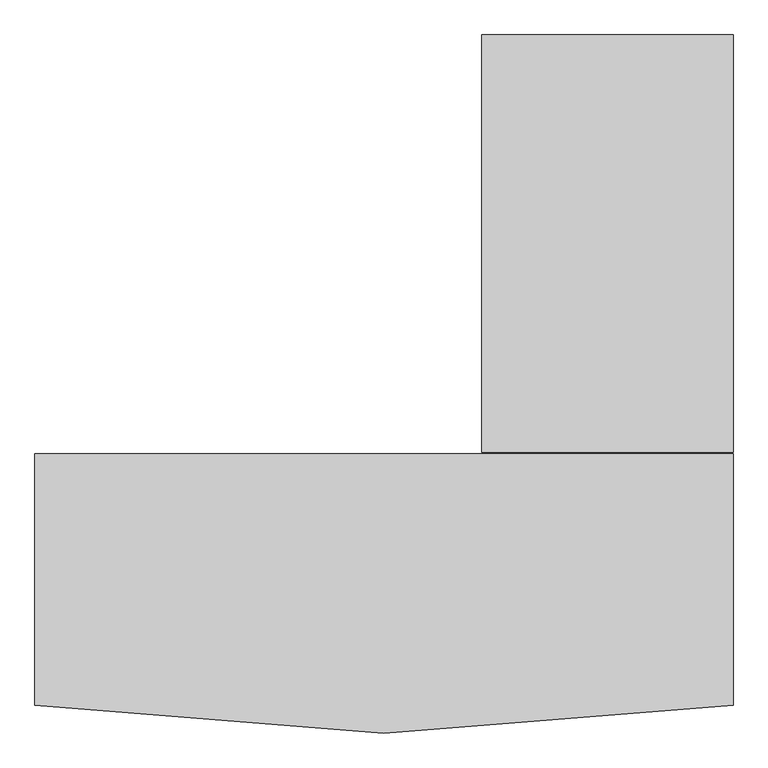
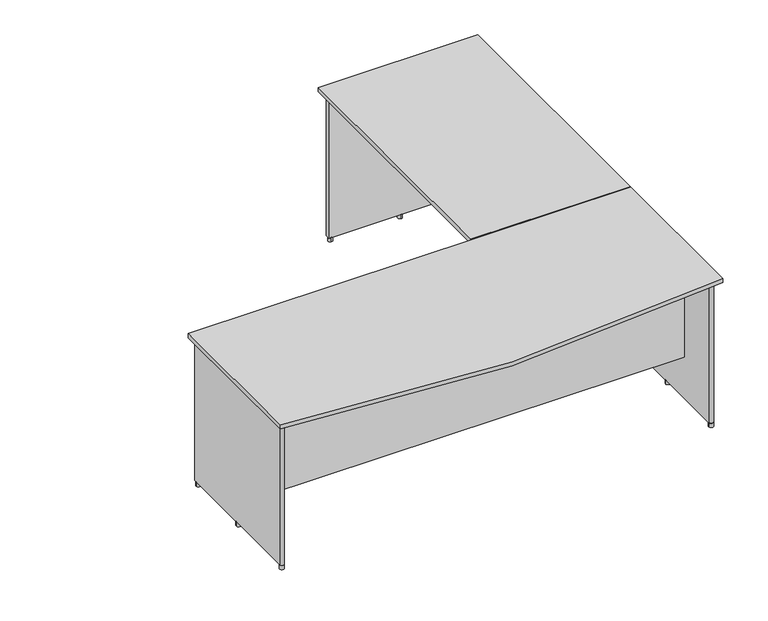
"""IFC4 building model written with IfcOpenShell, lengths in millimetres: furniture geometry, Mobilier - Bureau - En L - 2000mm x 2000mm."""

import ifcopenshell
import ifcopenshell.guid

model = None  # the IFC model being written
_history = None  # IfcOwnerHistory: only IFC2X3 demands one
_inside = {}  # id of a spatial element -> (the spatial element, [elements in it])
_under = {}  # id of a project, library or spatial element -> (it, [spatial elements below it])
_declared = {}  # id of a project -> (the project, [libraries it declares])
_typed = {}  # id of a type object -> (the type object, [elements of that type])
_made_of = {}  # id of a material, layer set ... -> (it, [elements and type objects made of it])


def new_model(schema):
    """Start an empty IFC model of exactly this schema.

    Asked for "IFC4X3", IfcOpenShell would pick the latest addendum, in which some entities
    have other attributes; the version numbers below select the first issue.
    IFC2X3 requires an IfcOwnerHistory on every rooted entity: one is made here for all.
    """
    global model, _history
    if schema == "IFC4X3":
        model = ifcopenshell.file(schema_version=(4, 3, 0, 0))
    else:
        model = ifcopenshell.file(schema=schema)
    _inside.clear()
    _under.clear()
    _declared.clear()
    _typed.clear()
    _made_of.clear()
    _history = None
    if model.schema == "IFC2X3":
        org = make("IfcOrganization", Name="unknown")
        user = make(
            "IfcPersonAndOrganization",
            ThePerson=make("IfcPerson", FamilyName="unknown"),
            TheOrganization=org,
        )
        app = make(
            "IfcApplication",
            ApplicationDeveloper=org,
            Version="unknown",
            ApplicationFullName="unknown",
            ApplicationIdentifier="unknown",
        )
        _history = make(
            "IfcOwnerHistory",
            OwningUser=user,
            OwningApplication=app,
            ChangeAction="ADDED",
            CreationDate=0,
        )
    return model


def make(cls, **values):
    """One entity of the class cls with the attributes given. An attribute that is None is left unset."""
    return model.create_entity(
        cls, **{name: value for name, value in values.items() if value is not None}
    )


def rooted(cls, **values):
    """An entity with a GlobalId (a new one), such as an element, a storey or a relation."""
    return make(cls, GlobalId=ifcopenshell.guid.new(), OwnerHistory=_history, **values)


def si_unit(unit_type, name, prefix=None):
    """IfcSIUnit, for example si_unit("LENGTHUNIT", "METRE", prefix="MILLI")."""
    return make("IfcSIUnit", UnitType=unit_type, Prefix=prefix, Name=name)


def assignment(units):
    """IfcUnitAssignment: the units of a project."""
    return None if units is None else make("IfcUnitAssignment", Units=units)


def point(xyz):
    """IfcCartesianPoint."""
    return None if xyz is None else make("IfcCartesianPoint", Coordinates=xyz)


def direction(xyz):
    """IfcDirection."""
    return None if xyz is None else make("IfcDirection", DirectionRatios=xyz)


def frame(location, z_axis=None, x_axis=None):
    """IfcAxis2Placement3D, a coordinate frame: its origin and axes. An axis left out is left unset."""
    return make(
        "IfcAxis2Placement3D",
        Location=point(location),
        Axis=direction(z_axis),
        RefDirection=direction(x_axis),
    )


def frame_2d(location, x_axis=None):
    """IfcAxis2Placement2D, a coordinate frame in the plane: its origin and x axis."""
    return make(
        "IfcAxis2Placement2D", Location=point(location), RefDirection=direction(x_axis)
    )


def origin():
    """The frame at (0, 0, 0) with its axes left unset."""
    return frame((0.0, 0.0, 0.0))


def origin_with_axes():
    """The frame at (0, 0, 0) with the z axis (0, 0, 1) and the x axis (1, 0, 0) written out."""
    return frame((0.0, 0.0, 0.0), z_axis=(0.0, 0.0, 1.0), x_axis=(1.0, 0.0, 0.0))


def place(relative_to, where):
    """IfcLocalPlacement: puts the frame where relative to a parent placement (None: the world)."""
    return make(
        "IfcLocalPlacement", PlacementRelTo=relative_to, RelativePlacement=where
    )


def context(
    kind, dimensions, precision=None, world=None, true_north=None, identifier=None
):
    """IfcGeometricRepresentationContext, for example the 3D "Model" context."""
    return make(
        "IfcGeometricRepresentationContext",
        ContextIdentifier=identifier,
        ContextType=kind,
        CoordinateSpaceDimension=dimensions,
        Precision=precision,
        WorldCoordinateSystem=world,
        TrueNorth=true_north,
    )


def project(units=None, contexts=None):
    """IfcProject with its units and contexts."""
    return rooted(
        "IfcProject",
        Name="project",
        RepresentationContexts=contexts,
        UnitsInContext=assignment(units),
    )


def spatial(cls, under=None, at=None, **own):
    """A site, building, storey or space (cls), placed at a placement, below another one or the project."""
    s = rooted(cls, ObjectPlacement=at, **own)
    if under is not None:
        _under.setdefault(under.id(), (under, []))[1].append(s)
    return s


def polyline(points):
    """IfcPolyline through the points."""
    return make("IfcPolyline", Points=[point(p) for p in points])


def circle_curve(where, radius):
    """IfcCircle in the frame where."""
    return make("IfcCircle", Position=where, Radius=radius)


def trimmed(basis, trim1, trim2, sense, master):
    """IfcTrimmedCurve: the piece of a basis curve between two trims."""
    return make(
        "IfcTrimmedCurve",
        BasisCurve=basis,
        Trim1=trim1,
        Trim2=trim2,
        SenseAgreement=sense,
        MasterRepresentation=master,
    )


def segment(curve, same_sense, transition):
    """IfcCompositeCurveSegment."""
    return make(
        "IfcCompositeCurveSegment",
        Transition=transition,
        SameSense=same_sense,
        ParentCurve=curve,
    )


def composite_curve(segments, self_intersect=None):
    """IfcCompositeCurve: segments joined end to end."""
    return make("IfcCompositeCurve", Segments=segments, SelfIntersect=self_intersect)


def outline(outer, holes=None, kind="AREA"):
    """IfcArbitraryClosedProfileDef: a profile drawn as a closed curve; with holes, ...WithVoids."""
    if holes is None:
        return make("IfcArbitraryClosedProfileDef", ProfileType=kind, OuterCurve=outer)
    return make(
        "IfcArbitraryProfileDefWithVoids",
        ProfileType=kind,
        OuterCurve=outer,
        InnerCurves=holes,
    )


def extrude(swept, where, along, depth):
    """IfcExtrudedAreaSolid: the profile swept, set in the frame where, extruded along a direction by depth."""
    return make(
        "IfcExtrudedAreaSolid",
        SweptArea=swept,
        Position=where,
        ExtrudedDirection=direction(along),
        Depth=depth,
    )


def shape(context_of_items, identifier, shape_type, items):
    """IfcShapeRepresentation: the items that make up one representation, for example the "Body"."""
    return make(
        "IfcShapeRepresentation",
        ContextOfItems=context_of_items,
        RepresentationIdentifier=identifier,
        RepresentationType=shape_type,
        Items=items,
    )


def source(mapping_origin, context_of_items, identifier, shape_type, items):
    """IfcRepresentationMap: a shape defined once, which mapped items show again and again."""
    return make(
        "IfcRepresentationMap",
        MappingOrigin=mapping_origin,
        MappedRepresentation=shape(context_of_items, identifier, shape_type, items),
    )


def transform(
    local_origin,
    x_axis=None,
    y_axis=None,
    z_axis=None,
    scale=None,
    scale2=None,
    scale3=None,
    uniform=True,
):
    """IfcCartesianTransformationOperator3D, or its non-uniform kind. x_axis, y_axis, z_axis: its Axis1, 2, 3."""
    if uniform:
        return make(
            "IfcCartesianTransformationOperator3D",
            Axis1=direction(x_axis),
            Axis2=direction(y_axis),
            LocalOrigin=point(local_origin),
            Scale=scale,
            Axis3=direction(z_axis),
        )
    return make(
        "IfcCartesianTransformationOperator3DnonUniform",
        Axis1=direction(x_axis),
        Axis2=direction(y_axis),
        LocalOrigin=point(local_origin),
        Scale=scale,
        Axis3=direction(z_axis),
        Scale2=scale2,
        Scale3=scale3,
    )


def mapped(mapping_source, mapping_target):
    """IfcMappedItem: shows the shape of a source again, moved by a transform."""
    return make(
        "IfcMappedItem", MappingSource=mapping_source, MappingTarget=mapping_target
    )


def made_of(thing, what):
    """Note that an element or type object is made of a material, layer set ...; save() writes the relation."""
    if what is not None:
        _made_of.setdefault(what.id(), (what, []))[1].append(thing)
    return thing


def element(
    cls,
    number,
    at=None,
    inside=None,
    cuts=None,
    type_object=None,
    material=None,
    context=None,
    identifier="Body",
    shape_type=None,
    held_by="IfcProductDefinitionShape",
    body=None,
    shapes=None,
    **own,
):
    """One element of the class cls, such as IfcWall. Its Tag is "e" and its number.

    at: its placement. inside: the storey or other place that contains it. cuts: it is an
    opening in that element (IfcRelVoidsElement). A single representation is given by context,
    identifier, shape_type and body (its items); several are given by shapes. held_by: the class
    of the entity that holds the representations. save() writes the other relations.
    """
    e = rooted(cls, Tag="e%d" % number, ObjectPlacement=at, **own)
    if body is not None:
        shapes = [shape(context, identifier, shape_type, body)]
    if shapes is not None:
        e.Representation = make(held_by, Representations=shapes)
    if inside is not None:
        _inside.setdefault(inside.id(), (inside, []))[1].append(e)
    if cuts is not None:
        rooted(
            "IfcRelVoidsElement", RelatingBuildingElement=cuts, RelatedOpeningElement=e
        )
    if type_object is not None:
        _typed.setdefault(type_object.id(), (type_object, []))[1].append(e)
    return made_of(e, material)


def aggregate(whole, parts):
    """IfcRelAggregates: a whole, such as a stair, and the parts it consists of."""
    return rooted("IfcRelAggregates", RelatingObject=whole, RelatedObjects=parts)


def save(model, path):
    """Write the relations noted so far, then the file.

    IfcRelAggregates (storeys below a building ...), IfcRelContainedInSpatialStructure (elements
    in a storey), IfcRelDefinesByType, IfcRelAssociatesMaterial and IfcRelDeclares: one each for
    every whole, place, type object, material and project.
    """
    for whole, parts in _under.values():
        aggregate(whole, parts)
    for where, things in _inside.values():
        rooted(
            "IfcRelContainedInSpatialStructure",
            RelatedElements=things,
            RelatingStructure=where,
        )
    for kind, things in _typed.values():
        rooted("IfcRelDefinesByType", RelatedObjects=things, RelatingType=kind)
    for what, things in _made_of.values():
        rooted("IfcRelAssociatesMaterial", RelatedObjects=things, RelatingMaterial=what)
    for by, libraries in _declared.values():
        rooted("IfcRelDeclares", RelatingContext=by, RelatedDefinitions=libraries)
    model.write(path)


def furniture_89aa0d74(model_context):
    return source(origin(), model_context, "Body", "SweptSolid", [
        extrude(outline(composite_curve([segment(polyline([(-1280.0, -720.0), (-1280.0, 0.0), (720.0, 0.0), (720.0, -720.0)]), True, "CONTINUOUS"), segment(trimmed(circle_curve(frame_2d((-280.0, 5490.0)), 6290.0), [point((720.0, -720.0))], [point((-1280.0, -720.0))], False, "CARTESIAN"), True, "CONTINUOUS")], self_intersect=False)), frame((0.0, 0.0, 700.0), z_axis=(0.0, 0.0, 1.0), x_axis=(1.0, 0.0, 0.0)), (0.0, 0.0, 1.0), 20.0),
        extrude(outline(composite_curve([segment(trimmed(circle_curve(frame_2d((690.0003738, -679.3436367)), 10.0), [point((680.0003738, -679.3436367))], [point((700.0003738, -679.3436367))], False, "CARTESIAN"), True, "CONTINUOUS"), segment(trimmed(circle_curve(frame_2d((690.0003738, -679.3436367)), 10.0), [point((700.0003738, -679.3436367))], [point((680.0003738, -679.3436367))], False, "CARTESIAN"), True, "CONTINUOUS")], self_intersect=False)), origin_with_axes(), (0.0, 0.0, 1.0), 20.0),
        extrude(outline(composite_curve([segment(trimmed(circle_curve(frame_2d((686.1103142, 1163.8215353)), 10.0), [point((686.1103142, 1153.8215353))], [point((686.1103142, 1173.8215353))], False, "CARTESIAN"), True, "CONTINUOUS"), segment(trimmed(circle_curve(frame_2d((686.1103142, 1163.8215353)), 10.0), [point((686.1103142, 1173.8215353))], [point((686.1103142, 1153.8215353))], False, "CARTESIAN"), True, "CONTINUOUS")], self_intersect=False)), origin_with_axes(), (0.0, 0.0, 1.0), 20.0),
        extrude(outline(composite_curve([segment(trimmed(circle_curve(frame_2d((-1250.0003738, -26.5806648)), 10.0), [point((-1240.0003738, -26.5806648))], [point((-1260.0003738, -26.5806648))], False, "CARTESIAN"), True, "CONTINUOUS"), segment(trimmed(circle_curve(frame_2d((-1250.0003738, -26.5806648)), 10.0), [point((-1260.0003738, -26.5806648))], [point((-1240.0003738, -26.5806648))], False, "CARTESIAN"), True, "CONTINUOUS")], self_intersect=False)), origin_with_axes(), (0.0, 0.0, 1.0), 20.0),
        extrude(outline(composite_curve([segment(trimmed(circle_curve(frame_2d((-1250.0003738, -679.3436367)), 10.0), [point((-1240.0003738, -679.3436367))], [point((-1260.0003738, -679.3436367))], False, "CARTESIAN"), True, "CONTINUOUS"), segment(trimmed(circle_curve(frame_2d((-1250.0003738, -679.3436367)), 10.0), [point((-1260.0003738, -679.3436367))], [point((-1240.0003738, -679.3436367))], False, "CARTESIAN"), True, "CONTINUOUS")], self_intersect=False)), origin_with_axes(), (0.0, 0.0, 1.0), 20.0),
        extrude(outline(composite_curve([segment(trimmed(circle_curve(frame_2d((-1250.0003738, -341.5806648)), 10.0), [point((-1240.0003738, -341.5806648))], [point((-1260.0003738, -341.5806648))], False, "CARTESIAN"), True, "CONTINUOUS"), segment(trimmed(circle_curve(frame_2d((-1250.0003738, -341.5806648)), 10.0), [point((-1260.0003738, -341.5806648))], [point((-1240.0003738, -341.5806648))], False, "CARTESIAN"), True, "CONTINUOUS")], self_intersect=False)), origin_with_axes(), (0.0, 0.0, 1.0), 20.0),
        extrude(outline(composite_curve([segment(trimmed(circle_curve(frame_2d((690.0003738, -26.5806648)), 10.0), [point((680.0003738, -26.5806648))], [point((700.0003738, -26.5806648))], False, "CARTESIAN"), True, "CONTINUOUS"), segment(trimmed(circle_curve(frame_2d((690.0003738, -26.5806648)), 10.0), [point((700.0003738, -26.5806648))], [point((680.0003738, -26.5806648))], False, "CARTESIAN"), True, "CONTINUOUS")], self_intersect=False)), origin_with_axes(), (0.0, 0.0, 1.0), 20.0),
        extrude(outline(composite_curve([segment(trimmed(circle_curve(frame_2d((690.0003738, -341.5806648)), 10.0), [point((680.0003738, -341.5806648))], [point((700.0003738, -341.5806648))], False, "CARTESIAN"), True, "CONTINUOUS"), segment(trimmed(circle_curve(frame_2d((690.0003738, -341.5806648)), 10.0), [point((700.0003738, -341.5806648))], [point((680.0003738, -341.5806648))], False, "CARTESIAN"), True, "CONTINUOUS")], self_intersect=False)), origin_with_axes(), (0.0, 0.0, 1.0), 20.0),
        extrude(outline(composite_curve([segment(trimmed(circle_curve(frame_2d((33.3473423, 1163.8215353)), 10.0), [point((33.3473423, 1153.8215353))], [point((33.3473423, 1173.8215353))], False, "CARTESIAN"), True, "CONTINUOUS"), segment(trimmed(circle_curve(frame_2d((33.3473423, 1163.8215353)), 10.0), [point((33.3473423, 1173.8215353))], [point((33.3473423, 1153.8215353))], False, "CARTESIAN"), True, "CONTINUOUS")], self_intersect=False)), origin_with_axes(), (0.0, 0.0, 1.0), 20.0),
        extrude(outline(composite_curve([segment(trimmed(circle_curve(frame_2d((348.3473423, 1163.8215353)), 10.0), [point((348.3473423, 1153.8215353))], [point((348.3473423, 1173.8215353))], False, "CARTESIAN"), True, "CONTINUOUS"), segment(trimmed(circle_curve(frame_2d((348.3473423, 1163.8215353)), 10.0), [point((348.3473423, 1173.8215353))], [point((348.3473423, 1153.8215353))], False, "CARTESIAN"), True, "CONTINUOUS")], self_intersect=False)), origin_with_axes(), (0.0, 0.0, 1.0), 20.0),
        extrude(outline(polyline([(680.0, -470.0), (680.0, -490.0), (-1240.0, -490.0), (-1240.0, -470.0), (680.0, -470.0)])), frame((0.0, 0.0, 220.0), z_axis=(0.0, 0.0, 1.0), x_axis=(1.0, 0.0, 0.0)), (0.0, 0.0, 1.0), 480.0),
        extrude(outline(polyline([(700.0, -15.0), (680.0, -15.0), (680.0, 1145.0), (700.0, 1145.0), (700.0, -15.0)])), frame((0.0, 0.0, 220.0), z_axis=(0.0, 0.0, 1.0), x_axis=(1.0, 0.0, 0.0)), (0.0, 0.0, 1.0), 480.0),
        extrude(outline(composite_curve([segment(polyline([(680.0, -15.0), (700.0, -15.0), (700.0, -680.0)]), True, "CONTINUOUS"), segment(trimmed(circle_curve(frame_2d((690.0, -680.0)), 10.0), [point((700.0, -680.0))], [point((680.0, -680.0))], False, "CARTESIAN"), True, "CONTINUOUS"), segment(polyline([(680.0, -680.0), (680.0, -15.0)]), True, "CONTINUOUS")], self_intersect=False)), frame((0.0, 0.0, 20.0), z_axis=(0.0, 0.0, 1.0), x_axis=(1.0, 0.0, 0.0)), (0.0, 0.0, 1.0), 680.0),
        extrude(outline(composite_curve([segment(polyline([(-1240.0, -15.0), (-1240.0, -680.0)]), True, "CONTINUOUS"), segment(trimmed(circle_curve(frame_2d((-1250.0, -680.0)), 10.0), [point((-1240.0, -680.0))], [point((-1260.0, -680.0))], False, "CARTESIAN"), True, "CONTINUOUS"), segment(polyline([(-1260.0, -680.0), (-1260.0, -15.0), (-1240.0, -15.0)]), True, "CONTINUOUS")], self_intersect=False)), frame((0.0, 0.0, 20.0), z_axis=(0.0, 0.0, 1.0), x_axis=(1.0, 0.0, 0.0)), (0.0, 0.0, 1.0), 680.0),
        extrude(outline(composite_curve([segment(polyline([(21.1103142, 1173.8215353), (686.1103142, 1173.8215353)]), True, "CONTINUOUS"), segment(trimmed(circle_curve(frame_2d((686.1103142, 1163.8215353)), 10.0), [point((686.1103142, 1173.8215353))], [point((686.1103142, 1153.8215353))], False, "CARTESIAN"), True, "CONTINUOUS"), segment(polyline([(686.1103142, 1153.8215353), (21.1103142, 1153.8215353), (21.1103142, 1173.8215353)]), True, "CONTINUOUS")], self_intersect=False)), frame((0.0, 0.0, 20.0), z_axis=(0.0, 0.0, 1.0), x_axis=(1.0, 0.0, 0.0)), (0.0, 0.0, 1.0), 680.0),
        extrude(outline(polyline([(0.0, 1200.0), (720.0, 1200.0), (720.0, 5.0), (0.0, 5.0), (0.0, 1200.0)])), frame((0.0, 0.0, 700.0), z_axis=(0.0, 0.0, 1.0), x_axis=(1.0, 0.0, 0.0)), (0.0, 0.0, 1.0), 20.0),
    ])


if __name__ == "__main__":
    model = new_model("IFC4")
    model_context = context("Model", 3, world=origin())
    ifc_project = project(units=[si_unit("LENGTHUNIT", "METRE", prefix="MILLI")], contexts=[model_context])
    site = spatial("IfcSite", under=ifc_project)
    building = spatial("IfcBuilding", under=site)
    placement = place(None, origin())
    furniture_shape = furniture_89aa0d74(model_context)
    element("IfcFurniture", 1, ObjectType="Mobilier - Bureau - En L - 2000mm x 2000mm", at=placement, inside=building, context=model_context, shape_type="MappedRepresentation", body=[
        mapped(furniture_shape, transform((0.0, 0.0, 0.0), x_axis=(1.0, 0.0, 0.0), y_axis=(0.0, 1.0, 0.0), z_axis=(0.0, 0.0, 1.0))),
    ])
    save(model, "model.ifc")
